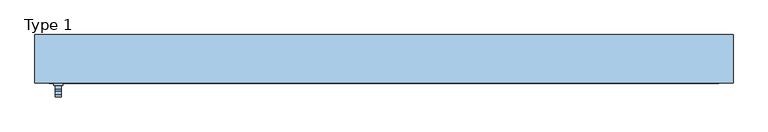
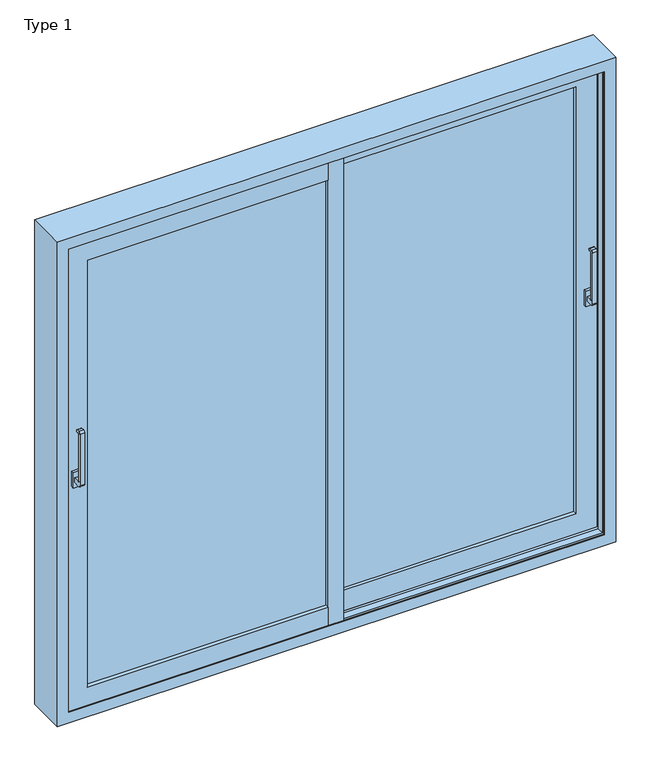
"""IFC4 building model written with IfcOpenShell, lengths in millimetres: window geometry, ETEM_E50_Double_Fly Screen_NI_Lift_Sliding : Type 1."""

import ifcopenshell
import ifcopenshell.guid

model = None  # the IFC model being written
_history = None  # IfcOwnerHistory: only IFC2X3 demands one
_inside = {}  # id of a spatial element -> (the spatial element, [elements in it])
_under = {}  # id of a project, library or spatial element -> (it, [spatial elements below it])
_declared = {}  # id of a project -> (the project, [libraries it declares])
_typed = {}  # id of a type object -> (the type object, [elements of that type])
_made_of = {}  # id of a material, layer set ... -> (it, [elements and type objects made of it])


def new_model(schema):
    """Start an empty IFC model of exactly this schema.

    Asked for "IFC4X3", IfcOpenShell would pick the latest addendum, in which some entities
    have other attributes; the version numbers below select the first issue.
    IFC2X3 requires an IfcOwnerHistory on every rooted entity: one is made here for all.
    """
    global model, _history
    if schema == "IFC4X3":
        model = ifcopenshell.file(schema_version=(4, 3, 0, 0))
    else:
        model = ifcopenshell.file(schema=schema)
    _inside.clear()
    _under.clear()
    _declared.clear()
    _typed.clear()
    _made_of.clear()
    _history = None
    if model.schema == "IFC2X3":
        org = make("IfcOrganization", Name="unknown")
        user = make(
            "IfcPersonAndOrganization",
            ThePerson=make("IfcPerson", FamilyName="unknown"),
            TheOrganization=org,
        )
        app = make(
            "IfcApplication",
            ApplicationDeveloper=org,
            Version="unknown",
            ApplicationFullName="unknown",
            ApplicationIdentifier="unknown",
        )
        _history = make(
            "IfcOwnerHistory",
            OwningUser=user,
            OwningApplication=app,
            ChangeAction="ADDED",
            CreationDate=0,
        )
    return model


def make(cls, **values):
    """One entity of the class cls with the attributes given. An attribute that is None is left unset."""
    return model.create_entity(
        cls, **{name: value for name, value in values.items() if value is not None}
    )


def rooted(cls, **values):
    """An entity with a GlobalId (a new one), such as an element, a storey or a relation."""
    return make(cls, GlobalId=ifcopenshell.guid.new(), OwnerHistory=_history, **values)


def si_unit(unit_type, name, prefix=None):
    """IfcSIUnit, for example si_unit("LENGTHUNIT", "METRE", prefix="MILLI")."""
    return make("IfcSIUnit", UnitType=unit_type, Prefix=prefix, Name=name)


def assignment(units):
    """IfcUnitAssignment: the units of a project."""
    return None if units is None else make("IfcUnitAssignment", Units=units)


def point(xyz):
    """IfcCartesianPoint."""
    return None if xyz is None else make("IfcCartesianPoint", Coordinates=xyz)


def direction(xyz):
    """IfcDirection."""
    return None if xyz is None else make("IfcDirection", DirectionRatios=xyz)


def frame(location, z_axis=None, x_axis=None):
    """IfcAxis2Placement3D, a coordinate frame: its origin and axes. An axis left out is left unset."""
    return make(
        "IfcAxis2Placement3D",
        Location=point(location),
        Axis=direction(z_axis),
        RefDirection=direction(x_axis),
    )


def frame_2d(location, x_axis=None):
    """IfcAxis2Placement2D, a coordinate frame in the plane: its origin and x axis."""
    return make(
        "IfcAxis2Placement2D", Location=point(location), RefDirection=direction(x_axis)
    )


def origin():
    """The frame at (0, 0, 0) with its axes left unset."""
    return frame((0.0, 0.0, 0.0))


def place(relative_to, where):
    """IfcLocalPlacement: puts the frame where relative to a parent placement (None: the world)."""
    return make(
        "IfcLocalPlacement", PlacementRelTo=relative_to, RelativePlacement=where
    )


def context(
    kind, dimensions, precision=None, world=None, true_north=None, identifier=None
):
    """IfcGeometricRepresentationContext, for example the 3D "Model" context."""
    return make(
        "IfcGeometricRepresentationContext",
        ContextIdentifier=identifier,
        ContextType=kind,
        CoordinateSpaceDimension=dimensions,
        Precision=precision,
        WorldCoordinateSystem=world,
        TrueNorth=true_north,
    )


def project(units=None, contexts=None):
    """IfcProject with its units and contexts."""
    return rooted(
        "IfcProject",
        Name="project",
        RepresentationContexts=contexts,
        UnitsInContext=assignment(units),
    )


def spatial(cls, under=None, at=None, **own):
    """A site, building, storey or space (cls), placed at a placement, below another one or the project."""
    s = rooted(cls, ObjectPlacement=at, **own)
    if under is not None:
        _under.setdefault(under.id(), (under, []))[1].append(s)
    return s


def polyline(points):
    """IfcPolyline through the points."""
    return make("IfcPolyline", Points=[point(p) for p in points])


def circle_curve(where, radius):
    """IfcCircle in the frame where."""
    return make("IfcCircle", Position=where, Radius=radius)


def ellipse_curve(where, semi_axis1, semi_axis2):
    """IfcEllipse in the frame where."""
    return make(
        "IfcEllipse", Position=where, SemiAxis1=semi_axis1, SemiAxis2=semi_axis2
    )


def trimmed(basis, trim1, trim2, sense, master):
    """IfcTrimmedCurve: the piece of a basis curve between two trims."""
    return make(
        "IfcTrimmedCurve",
        BasisCurve=basis,
        Trim1=trim1,
        Trim2=trim2,
        SenseAgreement=sense,
        MasterRepresentation=master,
    )


def segment(curve, same_sense, transition):
    """IfcCompositeCurveSegment."""
    return make(
        "IfcCompositeCurveSegment",
        Transition=transition,
        SameSense=same_sense,
        ParentCurve=curve,
    )


def composite_curve(segments, self_intersect=None):
    """IfcCompositeCurve: segments joined end to end."""
    return make("IfcCompositeCurve", Segments=segments, SelfIntersect=self_intersect)


def outline(outer, holes=None, kind="AREA"):
    """IfcArbitraryClosedProfileDef: a profile drawn as a closed curve; with holes, ...WithVoids."""
    if holes is None:
        return make("IfcArbitraryClosedProfileDef", ProfileType=kind, OuterCurve=outer)
    return make(
        "IfcArbitraryProfileDefWithVoids",
        ProfileType=kind,
        OuterCurve=outer,
        InnerCurves=holes,
    )


def extrude(swept, where, along, depth):
    """IfcExtrudedAreaSolid: the profile swept, set in the frame where, extruded along a direction by depth."""
    return make(
        "IfcExtrudedAreaSolid",
        SweptArea=swept,
        Position=where,
        ExtrudedDirection=direction(along),
        Depth=depth,
    )


def faces_of(points, faces, orient=None, outer=None):
    """IfcFace entities. A face is a list of loops; a loop is a list of indices into points, from 0.

    orient and outer hold one flag for each loop. By default every Orientation is true, the
    first loop of a face is its IfcFaceOuterBound and the others are IfcFaceBound.
    """
    made = []
    for i, loops in enumerate(faces):
        bounds = []
        for j, loop in enumerate(loops):
            is_outer = j == 0 if outer is None else outer[i][j]
            bounds.append(
                make(
                    "IfcFaceOuterBound" if is_outer else "IfcFaceBound",
                    Bound=make("IfcPolyLoop", Polygon=[points[k] for k in loop]),
                    Orientation=True if orient is None else orient[i][j],
                )
            )
        made.append(make("IfcFace", Bounds=bounds))
    return made


def faceted_brep(points, faces, orient=None, outer=None, voids=None):
    """IfcFacetedBrep: a solid bounded by flat faces; with voids (closed shells), ...WithVoids."""
    shared = [point(p) for p in points]
    hull = make("IfcClosedShell", CfsFaces=faces_of(shared, faces, orient, outer))
    if voids is None:
        return make("IfcFacetedBrep", Outer=hull)
    return make(
        "IfcFacetedBrepWithVoids",
        Outer=hull,
        Voids=[
            make(cls, CfsFaces=faces_of(shared, fs, o, b)) for cls, fs, o, b in voids
        ],
    )


def shape(context_of_items, identifier, shape_type, items):
    """IfcShapeRepresentation: the items that make up one representation, for example the "Body"."""
    return make(
        "IfcShapeRepresentation",
        ContextOfItems=context_of_items,
        RepresentationIdentifier=identifier,
        RepresentationType=shape_type,
        Items=items,
    )


def source(mapping_origin, context_of_items, identifier, shape_type, items):
    """IfcRepresentationMap: a shape defined once, which mapped items show again and again."""
    return make(
        "IfcRepresentationMap",
        MappingOrigin=mapping_origin,
        MappedRepresentation=shape(context_of_items, identifier, shape_type, items),
    )


def transform(
    local_origin,
    x_axis=None,
    y_axis=None,
    z_axis=None,
    scale=None,
    scale2=None,
    scale3=None,
    uniform=True,
):
    """IfcCartesianTransformationOperator3D, or its non-uniform kind. x_axis, y_axis, z_axis: its Axis1, 2, 3."""
    if uniform:
        return make(
            "IfcCartesianTransformationOperator3D",
            Axis1=direction(x_axis),
            Axis2=direction(y_axis),
            LocalOrigin=point(local_origin),
            Scale=scale,
            Axis3=direction(z_axis),
        )
    return make(
        "IfcCartesianTransformationOperator3DnonUniform",
        Axis1=direction(x_axis),
        Axis2=direction(y_axis),
        LocalOrigin=point(local_origin),
        Scale=scale,
        Axis3=direction(z_axis),
        Scale2=scale2,
        Scale3=scale3,
    )


def mapped(mapping_source, mapping_target):
    """IfcMappedItem: shows the shape of a source again, moved by a transform."""
    return make(
        "IfcMappedItem", MappingSource=mapping_source, MappingTarget=mapping_target
    )


def made_of(thing, what):
    """Note that an element or type object is made of a material, layer set ...; save() writes the relation."""
    if what is not None:
        _made_of.setdefault(what.id(), (what, []))[1].append(thing)
    return thing


def element(
    cls,
    number,
    at=None,
    inside=None,
    cuts=None,
    type_object=None,
    material=None,
    context=None,
    identifier="Body",
    shape_type=None,
    held_by="IfcProductDefinitionShape",
    body=None,
    shapes=None,
    **own,
):
    """One element of the class cls, such as IfcWall. Its Tag is "e" and its number.

    at: its placement. inside: the storey or other place that contains it. cuts: it is an
    opening in that element (IfcRelVoidsElement). A single representation is given by context,
    identifier, shape_type and body (its items); several are given by shapes. held_by: the class
    of the entity that holds the representations. save() writes the other relations.
    """
    e = rooted(cls, Tag="e%d" % number, ObjectPlacement=at, **own)
    if body is not None:
        shapes = [shape(context, identifier, shape_type, body)]
    if shapes is not None:
        e.Representation = make(held_by, Representations=shapes)
    if inside is not None:
        _inside.setdefault(inside.id(), (inside, []))[1].append(e)
    if cuts is not None:
        rooted(
            "IfcRelVoidsElement", RelatingBuildingElement=cuts, RelatedOpeningElement=e
        )
    if type_object is not None:
        _typed.setdefault(type_object.id(), (type_object, []))[1].append(e)
    return made_of(e, material)


def aggregate(whole, parts):
    """IfcRelAggregates: a whole, such as a stair, and the parts it consists of."""
    return rooted("IfcRelAggregates", RelatingObject=whole, RelatedObjects=parts)


def save(model, path):
    """Write the relations noted so far, then the file.

    IfcRelAggregates (storeys below a building ...), IfcRelContainedInSpatialStructure (elements
    in a storey), IfcRelDefinesByType, IfcRelAssociatesMaterial and IfcRelDeclares: one each for
    every whole, place, type object, material and project.
    """
    for whole, parts in _under.values():
        aggregate(whole, parts)
    for where, things in _inside.values():
        rooted(
            "IfcRelContainedInSpatialStructure",
            RelatedElements=things,
            RelatingStructure=where,
        )
    for kind, things in _typed.values():
        rooted("IfcRelDefinesByType", RelatedObjects=things, RelatingType=kind)
    for what, things in _made_of.values():
        rooted("IfcRelAssociatesMaterial", RelatedObjects=things, RelatingMaterial=what)
    for by, libraries in _declared.values():
        rooted("IfcRelDeclares", RelatingContext=by, RelatedDefinitions=libraries)
    model.write(path)


def plane_surface(at):
    """IfcPlane: the flat surface through the origin of the frame at, square to its z axis."""
    return make("IfcPlane", Position=at)


def cylinder_surface(at, radius):
    """IfcCylindricalSurface: all points at the distance radius from the z axis of the frame at."""
    return make("IfcCylindricalSurface", Position=at, Radius=radius)


def revolved_surface(curve, axis_point, axis_direction):
    """IfcSurfaceOfRevolution: the curve turned about the line through axis_point along axis_direction."""
    return make(
        "IfcSurfaceOfRevolution",
        SweptCurve=make("IfcArbitraryOpenProfileDef", ProfileType="CURVE", Curve=curve),
        AxisPosition=make("IfcAxis1Placement", Location=point(axis_point), Axis=direction(axis_direction)),
    )


def advanced_brep(points, edges, surfaces, faces):
    """IfcAdvancedBrep: a solid bounded by faces that lie on surfaces and meet in shared edges.

    An edge is (start, end): straight between two places in points (the first is 0);
    or (start, end, curve); or (start, end, curve, False) where it runs against its curve.
    A face is (place in surfaces, loops), or (place, loops, False) where it looks against
    its surface's normal. A loop lists edges by number (the first is 1), with a minus sign
    where the edge is run from its end to its start. The first loop is the outer one.
    """
    corners = [point(p) for p in points]
    vertices = [make("IfcVertexPoint", VertexGeometry=c) for c in corners]
    made = []
    for start, end, *more in edges:
        made.append(
            make(
                "IfcEdgeCurve",
                EdgeStart=vertices[start],
                EdgeEnd=vertices[end],
                EdgeGeometry=more[0] if more else make("IfcPolyline", Points=[corners[start], corners[end]]),
                SameSense=more[1] if len(more) > 1 else True,
            )
        )
    hull = []
    for where, loops, *sense in faces:
        bounds = []
        for j, loop in enumerate(loops):
            ring = [make("IfcOrientedEdge", EdgeElement=made[abs(k) - 1], Orientation=k > 0) for k in loop]
            bounds.append(
                make(
                    "IfcFaceOuterBound" if j == 0 else "IfcFaceBound",
                    Bound=make("IfcEdgeLoop", EdgeList=ring),
                    Orientation=True,
                )
            )
        hull.append(make("IfcAdvancedFace", Bounds=bounds, FaceSurface=surfaces[where], SameSense=sense[0] if sense else True))
    return make("IfcAdvancedBrep", Outer=make("IfcClosedShell", CfsFaces=hull))


def type_1_ba693a51(model_context):
    return source(origin(), model_context, "Body", "SolidModel", [
        extrude(outline(polyline([(1135.0, -4.2), (1105.0, -4.2), (1105.0, 8.8), (1135.0, 8.8), (1135.0, -4.2)])), frame((0.0, 0.0, 1065.0), z_axis=(0.0, 0.0, 1.0), x_axis=(1.0, 0.0, 0.0)), (0.0, 0.0, 1.0), 70.0),
        extrude(outline(composite_curve([segment(polyline([(-4.2, 1090.0), (-35.7736848, 1090.0)]), True, "CONTINUOUS"), segment(trimmed(circle_curve(frame_2d((-35.7736848, 1098.4263152)), 8.4263152), [point((-35.7736848, 1090.0))], [point((-44.2, 1098.4263152))], False, "CARTESIAN"), True, "CONTINUOUS"), segment(polyline([(-44.2, 1098.4263152), (-44.2, 1331.5736848)]), True, "CONTINUOUS"), segment(trimmed(circle_curve(frame_2d((-35.7736848, 1331.5736848)), 8.4263152), [point((-44.2, 1331.5736848))], [point((-35.7736848, 1340.0))], False, "CARTESIAN"), True, "CONTINUOUS"), segment(polyline([(-35.7736848, 1340.0), (-24.2, 1340.0)]), True, "CONTINUOUS"), segment(trimmed(circle_curve(frame_2d((-24.2, 1335.0)), 5.0), [point((-24.2, 1340.0))], [point((-24.2, 1330.0))], False, "CARTESIAN"), True, "CONTINUOUS"), segment(polyline([(-24.2, 1330.0), (-30.6644661, 1330.0)]), True, "CONTINUOUS"), segment(trimmed(circle_curve(frame_2d((-30.6644661, 1326.4644661)), 3.5355339), [point((-30.6644661, 1330.0))], [point((-34.2, 1326.4644661))], True, "CARTESIAN"), True, "CONTINUOUS"), segment(polyline([(-34.2, 1326.4644661), (-34.2, 1113.5355339)]), True, "CONTINUOUS"), segment(trimmed(circle_curve(frame_2d((-30.6644661, 1113.5355339)), 3.5355339), [point((-34.2, 1113.5355339))], [point((-30.6644661, 1110.0))], True, "CARTESIAN"), True, "CONTINUOUS"), segment(polyline([(-30.6644661, 1110.0), (-4.2, 1110.0), (-4.2, 1090.0)]), True, "CONTINUOUS")], self_intersect=False)), frame((1110.0, 0.0, 0.0), z_axis=(1.0, 0.0, 0.0), x_axis=(0.0, 1.0, 0.0)), (0.0, 0.0, 1.0), 20.0),
        extrude(outline(polyline([(-1105.0, -69.2), (-1135.0, -69.2), (-1135.0, -56.2), (-1105.0, -56.2), (-1105.0, -69.2)])), frame((0.0, 0.0, 1065.0), z_axis=(0.0, 0.0, 1.0), x_axis=(1.0, 0.0, 0.0)), (0.0, 0.0, 1.0), 70.0),
        extrude(outline(composite_curve([segment(polyline([(-69.2, 1090.0), (-100.7736848, 1090.0)]), True, "CONTINUOUS"), segment(trimmed(circle_curve(frame_2d((-100.7736848, 1098.4263152)), 8.4263152), [point((-100.7736848, 1090.0))], [point((-109.2, 1098.4263152))], False, "CARTESIAN"), True, "CONTINUOUS"), segment(polyline([(-109.2, 1098.4263152), (-109.2, 1331.5736848)]), True, "CONTINUOUS"), segment(trimmed(circle_curve(frame_2d((-100.7736848, 1331.5736848)), 8.4263152), [point((-109.2, 1331.5736848))], [point((-100.7736848, 1340.0))], False, "CARTESIAN"), True, "CONTINUOUS"), segment(polyline([(-100.7736848, 1340.0), (-89.2, 1340.0)]), True, "CONTINUOUS"), segment(trimmed(circle_curve(frame_2d((-89.2, 1335.0)), 5.0), [point((-89.2, 1340.0))], [point((-89.2, 1330.0))], False, "CARTESIAN"), True, "CONTINUOUS"), segment(polyline([(-89.2, 1330.0), (-95.6644661, 1330.0)]), True, "CONTINUOUS"), segment(trimmed(circle_curve(frame_2d((-95.6644661, 1326.4644661)), 3.5355339), [point((-95.6644661, 1330.0))], [point((-99.2, 1326.4644661))], True, "CARTESIAN"), True, "CONTINUOUS"), segment(polyline([(-99.2, 1326.4644661), (-99.2, 1113.5355339)]), True, "CONTINUOUS"), segment(trimmed(circle_curve(frame_2d((-95.6644661, 1113.5355339)), 3.5355339), [point((-99.2, 1113.5355339))], [point((-95.6644661, 1110.0))], True, "CARTESIAN"), True, "CONTINUOUS"), segment(polyline([(-95.6644661, 1110.0), (-69.2, 1110.0), (-69.2, 1090.0)]), True, "CONTINUOUS")], self_intersect=False)), frame((-1130.0, 0.0, 0.0), z_axis=(1.0, 0.0, 0.0), x_axis=(0.0, 1.0, 0.0)), (0.0, 0.0, 1.0), 20.0),
        faceted_brep([(-32.5, -6.2, 131.0), (-32.5, -56.2, 131.0), (-32.5, -56.2, 39.5), (-32.5, -51.5, 39.5), (-32.5, -51.5, 68.7), (-32.5, -10.9, 68.7), (-32.5, -10.9, 39.5), (-32.5, -6.2, 39.5), (-32.5, -6.2, 2069.0), (-32.5, -6.2, 2160.5), (-32.5, -10.9, 2160.5), (-32.5, -10.9, 2131.3), (-32.5, -51.5, 2131.3), (-32.5, -51.5, 2160.5), (-32.5, -56.2, 2160.5), (-32.5, -56.2, 2069.0), (-1068.999965, -6.2, 131.0), (-1068.999965, -56.2, 131.0), (-1068.999965, -56.2, 2069.0), (-1160.499965, -56.2, 2160.5), (-1160.499965, -56.2, 39.5), (-1160.499965, -51.5, 39.5), (-1160.499965, -51.5, 2160.5), (-1131.299965, -51.5, 2131.3), (-1131.299965, -51.5, 68.7), (-1131.299965, -10.9, 68.7), (-1131.299965, -10.9, 2131.3), (-1160.499965, -10.9, 2160.5), (-1160.499965, -10.9, 39.5), (-1160.499965, -6.2, 39.5), (-1160.499965, -6.2, 2160.5), (-1068.999965, -6.2, 2069.0)], [[[0, 1, 2, 3, 4, 5, 6, 7]], [[8, 9, 10, 11, 12, 13, 14, 15]], [[1, 0, 16, 17]], [[2, 1, 17, 18, 15, 14, 19, 20]], [[3, 2, 20, 21]], [[4, 3, 21, 22, 13, 12, 23, 24]], [[5, 4, 24, 25]], [[6, 5, 25, 26, 11, 10, 27, 28]], [[7, 6, 28, 29]], [[0, 7, 29, 30, 9, 8, 31, 16]], [[17, 16, 31, 18]], [[21, 20, 19, 22]], [[25, 24, 23, 26]], [[29, 28, 27, 30]], [[18, 31, 8, 15]], [[22, 19, 14, 13]], [[26, 23, 12, 11]], [[30, 27, 10, 9]]]),
        extrude(outline(polyline([(32.5, -56.2), (-32.5, -56.2), (-32.5, -6.2), (2.55, -6.2), (2.55, 1.3259028), (0.0, 1.3259028), (0.0, 3.2), (4.4, 3.2), (4.4, -1.5), (15.75, -1.5), (15.75, 4.8), (32.5, 4.8), (32.5, -56.2)])), frame((0.0, 0.0, 39.5), z_axis=(0.0, 0.0, 1.0), x_axis=(1.0, 0.0, 0.0)), (0.0, 0.0, 1.0), 2121.0),
        extrude(outline(polyline([(-32.5, -40.2), (-1068.999965, -40.2), (-1068.999965, -35.2), (-32.5, -35.2), (-32.5, -40.2)])), frame((0.0, 0.0, 131.0), z_axis=(0.0, 0.0, 1.0), x_axis=(1.0, 0.0, 0.0)), (0.0, 0.0, 1.0), 1938.0),
        extrude(outline(polyline([(32.5, 50.7998789), (1068.999965, 50.7998789), (1068.999965, 45.7998789), (32.5, 45.7998789), (32.5, 50.7998789)])), frame((0.0, 0.0, 131.0), z_axis=(0.0, 0.0, 1.0), x_axis=(1.0, 0.0, 0.0)), (0.0, 0.0, 1.0), 1938.0),
        faceted_brep([(1200.0, 105.0, 2200.0), (1200.0, -61.8, 2200.0), (1200.0, -61.8, 0.0), (1200.0, 105.0, 0.0), (-1200.0, -61.8, 2200.0), (-1200.0, -61.8, 0.0), (1151.5, -61.8, 48.5), (-1151.5, -61.8, 48.5), (-1151.5, -61.8, 2151.5), (1151.5, -61.8, 2151.5), (-1200.0, 105.0, 0.0), (-1200.0, 105.0, 2200.0), (1180.2, 105.0, 2180.2), (-1180.2, 105.0, 2180.2), (-1180.2, 105.0, 19.8), (1180.2, 105.0, 19.8), (1178.2, 89.3, 2178.2), (1178.2, 93.5, 2178.2), (1178.2, 93.5, 21.8), (1178.2, 89.3, 21.8), (-1178.2, 93.5, 21.8), (-1178.2, 89.3, 21.8), (-1178.2, 89.3, 2178.2), (1159.5, 89.3, 2159.5), (-1159.5, 89.3, 2159.5), (-1159.5, 89.3, 40.5), (1159.5, 89.3, 40.5), (1159.5, 90.8, 2159.5), (1159.5, 90.8, 40.5), (-1159.5, 90.8, 40.5), (-1159.5, 90.8, 2159.5), (1151.5, 90.8, 2151.5), (-1151.5, 90.8, 2151.5), (-1151.5, 90.8, 48.5), (1151.5, 90.8, 48.5), (1151.5, 78.8, 2151.5), (1151.5, 78.8, 48.5), (-1151.5, 78.8, 48.5), (1159.5, 78.8, 2159.5), (-1159.5, 78.8, 2159.5), (-1159.5, 78.8, 40.5), (1159.5, 78.8, 40.5), (-1151.5, 78.8, 2151.5), (1159.5, 80.3, 2159.5), (1159.5, 80.3, 40.5), (-1159.5, 80.3, 40.5), (1178.2, 80.3, 2178.2), (-1178.2, 80.3, 2178.2), (-1178.2, 80.3, 21.8), (1178.2, 80.3, 21.8), (-1159.5, 80.3, 2159.5), (1178.2, 38.3, 2178.2), (1178.2, 38.3, 21.8), (-1178.2, 38.3, 21.8), (-1178.2, 38.3, 2178.2), (1159.5, 38.3, 2159.5), (-1159.5, 38.3, 2159.5), (-1159.5, 38.3, 40.5), (1159.5, 38.3, 40.5), (1159.5, 49.8, 2159.5), (1159.5, 49.8, 40.5), (-1159.5, 49.8, 40.5), (-1159.5, 49.8, 2159.5), (1151.5, 49.8, 2151.5), (-1151.5, 49.8, 2151.5), (-1151.5, 49.8, 48.5), (1151.5, 49.8, 48.5), (1151.5, 17.8, 2151.5), (1151.5, 17.8, 48.5), (-1151.5, 17.8, 48.5), (1159.5, 17.8, 2159.5), (-1159.5, 17.8, 2159.5), (-1159.5, 17.8, 40.5), (1159.5, 17.8, 40.5), (-1151.5, 17.8, 2151.5), (1159.5, 29.3, 2159.5), (1159.5, 29.3, 40.5), (-1159.5, 29.3, 40.5), (1178.2, 29.3, 2178.2), (-1178.2, 29.3, 2178.2), (-1178.2, 29.3, 21.8), (1178.2, 29.3, 21.8), (-1159.5, 29.3, 2159.5), (1178.2, -26.7, 2178.2), (1178.2, -26.7, 21.8), (-1178.2, -26.7, 21.8), (-1178.2, -26.7, 2178.2), (1159.5, -26.7, 2159.5), (-1159.5, -26.7, 2159.5), (-1159.5, -26.7, 40.5), (1159.5, -26.7, 40.5), (1159.5, -15.2, 2159.5), (1159.5, -15.2, 40.5), (-1159.5, -15.2, 40.5), (-1159.5, -15.2, 2159.5), (1151.5, -15.2, 2151.5), (-1151.5, -15.2, 2151.5), (-1151.5, -15.2, 48.5), (1151.5, -15.2, 48.5), (1151.5, -47.2, 2151.5), (1151.5, -47.2, 48.5), (-1151.5, -47.2, 48.5), (1159.5, -47.2, 2159.5), (-1159.5, -47.2, 2159.5), (-1159.5, -47.2, 40.5), (1159.5, -47.2, 40.5), (-1151.5, -47.2, 2151.5), (1159.5, -35.7, 2159.5), (1159.5, -35.7, 40.5), (-1159.5, -35.7, 40.5), (1178.2, -35.7, 2178.2), (-1178.2, -35.7, 2178.2), (-1178.2, -35.7, 21.8), (1178.2, -35.7, 21.8), (-1159.5, -35.7, 2159.5), (1178.2, -58.2, 2178.2), (1178.2, -58.2, 21.8), (-1178.2, -58.2, 21.8), (-1178.2, -58.2, 2178.2), (1151.5, -58.2, 2151.5), (-1151.5, -58.2, 2151.5), (-1151.5, -58.2, 48.5), (1151.5, -58.2, 48.5), (-1178.2, 93.5, 2178.2), (1180.2, 93.5, 19.8), (-1180.2, 93.5, 19.8), (-1180.2, 93.5, 2180.2), (1180.2, 93.5, 2180.2)], [[[0, 1, 2, 3]], [[1, 4, 5, 2], [6, 7, 8, 9]], [[3, 2, 5, 10]], [[3, 10, 11, 0], [12, 13, 14, 15]], [[16, 17, 18, 19]], [[19, 18, 20, 21]], [[19, 21, 22, 16], [23, 24, 25, 26]], [[27, 23, 26, 28]], [[28, 26, 25, 29]], [[28, 29, 30, 27], [31, 32, 33, 34]], [[35, 31, 34, 36]], [[36, 34, 33, 37]], [[38, 39, 40, 41], [36, 37, 42, 35]], [[43, 38, 41, 44]], [[44, 41, 40, 45]], [[46, 47, 48, 49], [44, 45, 50, 43]], [[51, 46, 49, 52]], [[52, 49, 48, 53]], [[52, 53, 54, 51], [55, 56, 57, 58]], [[59, 55, 58, 60]], [[60, 58, 57, 61]], [[60, 61, 62, 59], [63, 64, 65, 66]], [[67, 63, 66, 68]], [[68, 66, 65, 69]], [[70, 71, 72, 73], [68, 69, 74, 67]], [[75, 70, 73, 76]], [[76, 73, 72, 77]], [[78, 79, 80, 81], [76, 77, 82, 75]], [[83, 78, 81, 84]], [[84, 81, 80, 85]], [[84, 85, 86, 83], [87, 88, 89, 90]], [[91, 87, 90, 92]], [[92, 90, 89, 93]], [[92, 93, 94, 91], [95, 96, 97, 98]], [[99, 95, 98, 100]], [[100, 98, 97, 101]], [[102, 103, 104, 105], [100, 101, 106, 99]], [[107, 102, 105, 108]], [[108, 105, 104, 109]], [[110, 111, 112, 113], [108, 109, 114, 107]], [[115, 110, 113, 116]], [[116, 113, 112, 117]], [[116, 117, 118, 115], [119, 120, 121, 122]], [[9, 119, 122, 6]], [[6, 122, 121, 7]], [[10, 5, 4, 11]], [[21, 20, 123, 22]], [[29, 25, 24, 30]], [[37, 33, 32, 42]], [[45, 40, 39, 50]], [[53, 48, 47, 54]], [[61, 57, 56, 62]], [[69, 65, 64, 74]], [[77, 72, 71, 82]], [[85, 80, 79, 86]], [[93, 89, 88, 94]], [[101, 97, 96, 106]], [[109, 104, 103, 114]], [[117, 112, 111, 118]], [[7, 121, 120, 8]], [[11, 4, 1, 0]], [[22, 123, 17, 16]], [[30, 24, 23, 27]], [[42, 32, 31, 35]], [[50, 39, 38, 43]], [[54, 47, 46, 51]], [[62, 56, 55, 59]], [[74, 64, 63, 67]], [[82, 71, 70, 75]], [[86, 79, 78, 83]], [[94, 88, 87, 91]], [[106, 96, 95, 99]], [[114, 103, 102, 107]], [[118, 111, 110, 115]], [[8, 120, 119, 9]], [[124, 125, 126, 127], [17, 123, 20, 18]], [[125, 14, 13, 126]], [[124, 15, 14, 125]], [[127, 12, 15, 124]], [[126, 13, 12, 127]]]),
        extrude(outline(polyline([(32.5, 29.8), (1068.999965, 29.8), (1068.999965, 24.8), (32.5, 24.8), (32.5, 29.8)])), frame((0.0, 0.0, 131.0), z_axis=(0.0, 0.0, 1.0), x_axis=(1.0, 0.0, 0.0)), (0.0, 0.0, 1.0), 1938.0),
        extrude(outline(polyline([(-32.5, -19.2001211), (-1068.999965, -19.2001211), (-1068.999965, -14.2001211), (-32.5, -14.2001211), (-32.5, -19.2001211)])), frame((0.0, 0.0, 131.0), z_axis=(0.0, 0.0, 1.0), x_axis=(1.0, 0.0, 0.0)), (0.0, 0.0, 1.0), 1938.0),
        extrude(outline(polyline([(-28.5, 73.8), (-1089.499965, 73.8), (-1089.499965, 74.8), (-28.5, 74.8), (-28.5, 73.8)])), frame((0.0, 0.0, 110.5), z_axis=(0.0, 0.0, 1.0), x_axis=(1.0, 0.0, 0.0)), (0.0, 0.0, 1.0), 1979.0),
        advanced_brep(
        [(-25.1, 71.8, 2092.9), (-25.1, 74.8, 2092.9), (-25.1, 74.8, 107.1), (-25.1, 71.8, 107.1), (-1092.899965, 74.8, 2092.9), (-1092.899965, 74.8, 107.1), (-32.5, 74.8, 114.5), (-1085.499965, 74.8, 114.5), (-1085.499965, 74.8, 2085.5), (-32.5, 74.8, 2085.5), (-1092.899965, 71.8, 107.1), (-23.3, 71.8, 2094.7), (-1094.699965, 71.8, 2094.7), (-1094.699965, 71.8, 105.3), (-23.3, 71.8, 105.3), (-1092.899965, 71.8, 2092.9), (-23.3543214, 72.9975359, 2094.6456786), (-23.3543214, 72.9975359, 105.3543214), (-1094.6456435, 72.9975359, 105.3543214), (-23.9, 73.5, 2094.1), (-23.9, 73.5, 105.9), (-1094.099965, 73.5, 105.9), (-23.9, 80.1, 2094.1), (-23.9, 80.1, 105.9), (-1094.099965, 80.1, 105.9), (-3.7, 80.1, 2114.3), (-1114.299965, 80.1, 2114.3), (-1114.299965, 80.1, 85.7), (-3.7, 80.1, 85.7), (-1094.099965, 80.1, 2094.1), (-3.7, 71.8, 2114.3), (-3.7, 71.8, 85.7), (-1114.299965, 71.8, 85.7), (39.5, 71.8, 2157.5), (-1157.499965, 71.8, 2157.5), (-1157.499965, 71.8, 42.5), (39.5, 71.8, 42.5), (-1114.299965, 71.8, 2114.3), (42.5, 73.1542487, 2160.5), (42.5, 73.1542487, 39.5), (-1160.499965, 73.1542487, 39.5), (42.5, 76.3, 2160.5), (42.5, 76.3, 39.5), (-1160.499965, 76.3, 39.5), (-1160.499965, 76.3, 2160.5), (32.2, 76.3, 2150.2), (-1150.199965, 76.3, 2150.2), (-1150.199965, 76.3, 49.8), (32.2, 76.3, 49.8), (32.2, 93.3, 2150.2), (32.2, 93.3, 49.8), (-1150.199965, 93.3, 49.8), (42.5, 93.3, 2160.5), (-1160.499965, 93.3, 2160.5), (-1160.499965, 93.3, 39.5), (42.5, 93.3, 39.5), (-1150.199965, 93.3, 2150.2), (42.5, 96.4457513, 2160.5), (42.5, 96.4457513, 39.5), (-1160.499965, 96.4457513, 39.5), (39.5, 97.8, 2157.5), (39.5, 97.8, 42.5), (-1157.499965, 97.8, 42.5), (-1157.499965, 97.8, 2157.5), (-3.7, 97.8, 2114.3), (-1114.299965, 97.8, 2114.3), (-1114.299965, 97.8, 85.7), (-3.7, 97.8, 85.7), (-3.7, 89.5, 2114.3), (-3.7, 89.5, 85.7), (-1114.299965, 89.5, 85.7), (-1114.299965, 89.5, 2114.3), (-30.1, 89.5, 2087.9), (-1087.899965, 89.5, 2087.9), (-1087.899965, 89.5, 112.1), (-30.1, 89.5, 112.1), (-31.3, 90.7, 2086.7), (-31.3, 90.7, 113.3), (-1086.699965, 90.7, 113.3), (-31.3, 93.8, 2086.7), (-31.3, 93.8, 113.3), (-1086.699965, 93.8, 113.3), (-28.9941176, 96.5560566, 2089.0058824), (-28.9941176, 96.5560566, 110.9941176), (-1089.0058473, 96.5560566, 110.9941176), (-29.2058824, 97.7372237, 2088.7941176), (-29.2058824, 97.7372237, 111.2058824), (-1088.7940826, 97.7372237, 111.2058824), (-32.5, 93.8, 2085.5), (-32.5, 93.8, 114.5), (-1085.499965, 93.8, 114.5), (-1094.6456435, 72.9975359, 2094.6456786), (-1094.099965, 73.5, 2094.1), (-1160.499965, 73.1542487, 2160.5), (-1160.499965, 96.4457513, 2160.5), (-1086.699965, 90.7, 2086.7), (-1086.699965, 93.8, 2086.7), (-1089.0058473, 96.5560566, 2089.0058824), (-1088.7940826, 97.7372237, 2088.7941176), (-1085.499965, 93.8, 2085.5)],
        [
            (0, 1),
            (1, 2),
            (2, 3),
            (3, 0),
            (1, 4),
            (4, 5),
            (5, 2),
            (6, 7),
            (7, 8),
            (8, 9),
            (9, 6),
            (5, 10),
            (10, 3),
            (11, 12),
            (12, 13),
            (13, 14),
            (14, 11),
            (10, 15),
            (15, 0),
            (16, 11, ellipse_curve(frame((-23.3, 72.4, 2094.7), z_axis=(0.7071067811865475, 0.0, -0.7071067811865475), x_axis=(0.7071067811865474, 0.0, 0.7071067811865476)), 0.8485281, 0.6)),
            (14, 17, ellipse_curve(frame((-23.3, 72.4, 105.3), z_axis=(0.7071067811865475, 0.0, 0.7071067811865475), x_axis=(-0.7071067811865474, 0.0, 0.7071067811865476)), 0.8485281, 0.6)),
            (17, 16),
            (13, 18, ellipse_curve(frame((-1094.699965, 72.4, 105.3), z_axis=(0.7071067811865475, 0.0, -0.7071067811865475), x_axis=(0.7071067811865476, 0.0, 0.7071067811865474)), 0.8485281, 0.6)),
            (18, 17),
            (19, 16, ellipse_curve(frame((-23.4, 73.5, 2094.6), z_axis=(-0.7071067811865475, 0.0, 0.7071067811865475), x_axis=(-0.7071067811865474, 0.0, -0.7071067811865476)), 0.7071068, 0.5)),
            (17, 20, ellipse_curve(frame((-23.4, 73.5, 105.4), z_axis=(-0.7071067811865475, 0.0, -0.7071067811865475), x_axis=(0.7071067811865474, 0.0, -0.7071067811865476)), 0.7071068, 0.5)),
            (20, 19),
            (18, 21, ellipse_curve(frame((-1094.599965, 73.5, 105.4), z_axis=(-0.7071067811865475, 0.0, 0.7071067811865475), x_axis=(-0.7071067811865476, 0.0, -0.7071067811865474)), 0.7071068, 0.5)),
            (21, 20),
            (22, 19),
            (20, 23),
            (23, 22),
            (21, 24),
            (24, 23),
            (25, 26),
            (26, 27),
            (27, 28),
            (28, 25),
            (24, 29),
            (29, 22),
            (30, 25),
            (28, 31),
            (31, 30),
            (27, 32),
            (32, 31),
            (33, 34),
            (34, 35),
            (35, 36),
            (36, 33),
            (32, 37),
            (37, 30),
            (38, 33, ellipse_curve(frame((39.5, 75.8, 2157.5), z_axis=(0.7071067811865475, 0.0, -0.7071067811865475), x_axis=(0.7071067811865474, 0.0, 0.7071067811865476)), 5.6568542, 4.0)),
            (36, 39, ellipse_curve(frame((39.5, 75.8, 42.5), z_axis=(0.7071067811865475, 0.0, 0.7071067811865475), x_axis=(-0.7071067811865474, 0.0, 0.7071067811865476)), 5.6568542, 4.0)),
            (39, 38),
            (35, 40, ellipse_curve(frame((-1157.499965, 75.8, 42.5), z_axis=(0.7071067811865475, 0.0, -0.7071067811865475), x_axis=(0.7071067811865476, 0.0, 0.7071067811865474)), 5.6568542, 4.0)),
            (40, 39),
            (41, 38),
            (39, 42),
            (42, 41),
            (40, 43),
            (43, 42),
            (43, 44),
            (44, 41),
            (45, 46),
            (46, 47),
            (47, 48),
            (48, 45),
            (49, 45),
            (48, 50),
            (50, 49),
            (47, 51),
            (51, 50),
            (52, 53),
            (53, 54),
            (54, 55),
            (55, 52),
            (51, 56),
            (56, 49),
            (57, 52),
            (55, 58),
            (58, 57),
            (54, 59),
            (59, 58),
            (60, 57, ellipse_curve(frame((39.5, 93.8, 2157.5), z_axis=(0.7071067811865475, 0.0, -0.7071067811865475), x_axis=(0.7071067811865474, 0.0, 0.7071067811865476)), 5.6568542, 4.0)),
            (58, 61, ellipse_curve(frame((39.5, 93.8, 42.5), z_axis=(0.7071067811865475, 0.0, 0.7071067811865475), x_axis=(-0.7071067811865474, 0.0, 0.7071067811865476)), 5.6568542, 4.0)),
            (61, 60),
            (59, 62, ellipse_curve(frame((-1157.499965, 93.8, 42.5), z_axis=(0.7071067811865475, 0.0, -0.7071067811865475), x_axis=(0.7071067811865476, 0.0, 0.7071067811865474)), 5.6568542, 4.0)),
            (62, 61),
            (62, 63),
            (63, 60),
            (64, 65),
            (65, 66),
            (66, 67),
            (67, 64),
            (68, 64),
            (67, 69),
            (69, 68),
            (66, 70),
            (70, 69),
            (70, 71),
            (71, 68),
            (72, 73),
            (73, 74),
            (74, 75),
            (75, 72),
            (76, 72, ellipse_curve(frame((-30.1, 90.7, 2087.9), z_axis=(-0.7071067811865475, 0.0, 0.7071067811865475), x_axis=(-0.7071067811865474, 0.0, -0.7071067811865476)), 1.6970563, 1.2)),
            (75, 77, ellipse_curve(frame((-30.1, 90.7, 112.1), z_axis=(-0.7071067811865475, 0.0, -0.7071067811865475), x_axis=(0.7071067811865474, 0.0, -0.7071067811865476)), 1.6970563, 1.2)),
            (77, 76),
            (74, 78, ellipse_curve(frame((-1087.899965, 90.7, 112.1), z_axis=(-0.7071067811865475, 0.0, 0.7071067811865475), x_axis=(-0.7071067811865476, 0.0, -0.7071067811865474)), 1.6970563, 1.2)),
            (78, 77),
            (79, 76),
            (77, 80),
            (80, 79),
            (78, 81),
            (81, 80),
            (82, 79, ellipse_curve(frame((-28.5, 93.8, 2089.5), z_axis=(-0.7071067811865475, 0.0, 0.7071067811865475), x_axis=(-0.7071067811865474, 0.0, -0.7071067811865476)), 3.959798, 2.8)),
            (80, 83, ellipse_curve(frame((-28.5, 93.8, 110.5), z_axis=(-0.7071067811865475, 0.0, -0.7071067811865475), x_axis=(0.7071067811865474, 0.0, -0.7071067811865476)), 3.959798, 2.8)),
            (83, 82),
            (81, 84, ellipse_curve(frame((-1089.499965, 93.8, 110.5), z_axis=(-0.7071067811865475, 0.0, 0.7071067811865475), x_axis=(-0.7071067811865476, 0.0, -0.7071067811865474)), 3.959798, 2.8)),
            (84, 83),
            (85, 82, ellipse_curve(frame((-29.1, 97.1466401, 2088.9), z_axis=(0.7071067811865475, 0.0, -0.7071067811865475), x_axis=(0.7071067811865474, 0.0, 0.7071067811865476)), 0.8485281, 0.6)),
            (83, 86, ellipse_curve(frame((-29.1, 97.1466401, 111.1), z_axis=(0.7071067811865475, 0.0, 0.7071067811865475), x_axis=(-0.7071067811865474, 0.0, 0.7071067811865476)), 0.8485281, 0.6)),
            (86, 85),
            (84, 87, ellipse_curve(frame((-1088.899965, 97.1466401, 111.1), z_axis=(0.7071067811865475, 0.0, -0.7071067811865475), x_axis=(0.7071067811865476, 0.0, 0.7071067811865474)), 0.8485281, 0.6)),
            (87, 86),
            (88, 85, ellipse_curve(frame((-28.5, 93.8, 2089.5), z_axis=(0.7071067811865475, 0.0, -0.7071067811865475), x_axis=(0.7071067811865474, 0.0, 0.7071067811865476)), 5.6568542, 4.0)),
            (86, 89, ellipse_curve(frame((-28.5, 93.8, 110.5), z_axis=(0.7071067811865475, 0.0, 0.7071067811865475), x_axis=(-0.7071067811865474, 0.0, 0.7071067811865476)), 5.6568542, 4.0)),
            (89, 88),
            (87, 90, ellipse_curve(frame((-1089.499965, 93.8, 110.5), z_axis=(0.7071067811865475, 0.0, -0.7071067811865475), x_axis=(0.7071067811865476, 0.0, 0.7071067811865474)), 5.6568542, 4.0)),
            (90, 89),
            (9, 88),
            (89, 6),
            (90, 7),
            (4, 15),
            (12, 91, ellipse_curve(frame((-1094.699965, 72.4, 2094.7), z_axis=(-0.7071067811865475, 0.0, -0.7071067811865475), x_axis=(0.7071067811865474, 0.0, -0.7071067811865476)), 0.8485281, 0.6)),
            (91, 18),
            (91, 92, ellipse_curve(frame((-1094.599965, 73.5, 2094.6), z_axis=(0.7071067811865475, 0.0, 0.7071067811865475), x_axis=(-0.7071067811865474, 0.0, 0.7071067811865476)), 0.7071068, 0.5)),
            (92, 21),
            (92, 29),
            (26, 37),
            (34, 93, ellipse_curve(frame((-1157.499965, 75.8, 2157.5), z_axis=(-0.7071067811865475, 0.0, -0.7071067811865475), x_axis=(0.7071067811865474, 0.0, -0.7071067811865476)), 5.6568542, 4.0)),
            (93, 40),
            (93, 44),
            (46, 56),
            (53, 94),
            (94, 59),
            (94, 63, ellipse_curve(frame((-1157.499965, 93.8, 2157.5), z_axis=(-0.7071067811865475, 0.0, -0.7071067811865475), x_axis=(0.7071067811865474, 0.0, -0.7071067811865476)), 5.6568542, 4.0)),
            (65, 71),
            (73, 95, ellipse_curve(frame((-1087.899965, 90.7, 2087.9), z_axis=(0.7071067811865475, 0.0, 0.7071067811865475), x_axis=(-0.7071067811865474, 0.0, 0.7071067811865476)), 1.6970563, 1.2)),
            (95, 78),
            (95, 96),
            (96, 81),
            (96, 97, ellipse_curve(frame((-1089.499965, 93.8, 2089.5), z_axis=(0.7071067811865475, 0.0, 0.7071067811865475), x_axis=(-0.7071067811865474, 0.0, 0.7071067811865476)), 3.959798, 2.8)),
            (97, 84),
            (97, 98, ellipse_curve(frame((-1088.899965, 97.1466401, 2088.9), z_axis=(-0.7071067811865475, 0.0, -0.7071067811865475), x_axis=(0.7071067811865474, 0.0, -0.7071067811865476)), 0.8485281, 0.6)),
            (98, 87),
            (98, 99, ellipse_curve(frame((-1089.499965, 93.8, 2089.5), z_axis=(-0.7071067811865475, 0.0, -0.7071067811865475), x_axis=(0.7071067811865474, 0.0, -0.7071067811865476)), 5.6568542, 4.0)),
            (99, 90),
            (99, 8),
            (16, 91),
            (19, 92),
            (38, 93),
            (57, 94),
            (76, 95),
            (79, 96),
            (82, 97),
            (85, 98),
            (88, 99),
        ],
        [
            plane_surface(frame((-25.1, 74.8, 2092.9), z_axis=(-1.0, 0.0, 0.0), x_axis=(0.0, 0.0, -1.0))),
            plane_surface(frame((-1085.499965, 74.8, 2085.5), z_axis=(0.0, -1.0, 0.0), x_axis=(1.0, 0.0, 0.0))),
            plane_surface(frame((-25.1, 74.8, 107.1), z_axis=(0.0, 0.0, 1.0), x_axis=(-1.0, 0.0, 0.0))),
            plane_surface(frame((-1092.899965, 71.8, 2092.9), z_axis=(0.0, -1.0, 0.0), x_axis=(1.0, 0.0, 0.0))),
            cylinder_surface(frame((-23.3, 72.4, 2160.5), z_axis=(0.0, 0.0, 1.0), x_axis=(1.0, 0.0, 0.0)), 0.6),
            cylinder_surface(frame((42.5, 72.4, 105.3), z_axis=(1.0, 0.0, 0.0), x_axis=(0.0, 0.0, -1.0)), 0.6),
            revolved_surface(polyline([(-22.9, 73.5, 104.89999998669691), (-22.9, 73.5, 2095.100000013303)]), (-23.4, 73.5, 2160.5), (0.0, 0.0, -1.0)),
            revolved_surface(polyline([(-1095.0999650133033, 73.5, 104.9), (-22.899999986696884, 73.5, 104.9)]), (42.5, 73.5, 105.4), (-1.0, 0.0, 0.0)),
            plane_surface(frame((-23.9, 73.5, 2094.1), z_axis=(1.0, 0.0, 0.0), x_axis=(0.0, 0.0, -1.0))),
            plane_surface(frame((-23.9, 73.5, 105.9), z_axis=(0.0, 0.0, -1.0), x_axis=(-1.0, 0.0, 0.0))),
            plane_surface(frame((-1094.099965, 80.1, 2094.1), z_axis=(0.0, -1.0, 0.0), x_axis=(1.0, 0.0, 0.0))),
            plane_surface(frame((-3.7, 80.1, 2114.3), z_axis=(-1.0, 0.0, 0.0), x_axis=(0.0, 0.0, -1.0))),
            plane_surface(frame((-3.7, 80.1, 85.7), z_axis=(0.0, 0.0, 1.0), x_axis=(-1.0, 0.0, 0.0))),
            plane_surface(frame((-1114.299965, 71.8, 2114.3), z_axis=(0.0, -1.0, 0.0), x_axis=(1.0, 0.0, 0.0))),
            cylinder_surface(frame((39.5, 75.8, 2160.5), z_axis=(0.0, 0.0, 1.0), x_axis=(1.0, 0.0, 0.0)), 4.0),
            cylinder_surface(frame((42.5, 75.8, 42.5), z_axis=(1.0, 0.0, 0.0), x_axis=(0.0, 0.0, -1.0)), 4.0),
            plane_surface(frame((42.5, 73.1542487, 2160.5), z_axis=(1.0, 0.0, 0.0), x_axis=(0.0, 0.0, -1.0))),
            plane_surface(frame((42.5, 73.1542487, 39.5), z_axis=(0.0, 0.0, -1.0), x_axis=(-1.0, 0.0, 0.0))),
            plane_surface(frame((-1160.499965, 76.3, 2160.5), z_axis=(0.0, 1.0, 0.0), x_axis=(1.0, 0.0, 0.0))),
            plane_surface(frame((32.2, 76.3, 2150.2), z_axis=(1.0, 0.0, 0.0), x_axis=(0.0, 0.0, -1.0))),
            plane_surface(frame((32.2, 76.3, 49.8), z_axis=(0.0, 0.0, -1.0), x_axis=(-1.0, 0.0, 0.0))),
            plane_surface(frame((-1150.199965, 93.3, 2150.2), z_axis=(0.0, -1.0, 0.0), x_axis=(1.0, 0.0, 0.0))),
            plane_surface(frame((42.5, 93.3, 2160.5), z_axis=(1.0, 0.0, 0.0), x_axis=(0.0, 0.0, -1.0))),
            plane_surface(frame((42.5, 93.3, 39.5), z_axis=(0.0, 0.0, -1.0), x_axis=(-1.0, 0.0, 0.0))),
            cylinder_surface(frame((39.5, 93.8, 2160.5), z_axis=(0.0, 0.0, 1.0), x_axis=(1.0, 0.0, 0.0)), 4.0),
            cylinder_surface(frame((42.5, 93.8, 42.5), z_axis=(1.0, 0.0, 0.0), x_axis=(0.0, 0.0, -1.0)), 4.0),
            plane_surface(frame((-1157.499965, 97.8, 2157.5), z_axis=(0.0, 1.0, 0.0), x_axis=(1.0, 0.0, 0.0))),
            plane_surface(frame((-3.7, 97.8, 2114.3), z_axis=(-1.0, 0.0, 0.0), x_axis=(0.0, 0.0, -1.0))),
            plane_surface(frame((-3.7, 97.8, 85.7), z_axis=(0.0, 0.0, 1.0), x_axis=(-1.0, 0.0, 0.0))),
            plane_surface(frame((-1114.299965, 89.5, 2114.3), z_axis=(0.0, 1.0, 0.0), x_axis=(1.0, 0.0, 0.0))),
            revolved_surface(polyline([(-28.900000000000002, 90.7, 110.89999998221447), (-28.900000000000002, 90.7, 2089.1000000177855)]), (-30.1, 90.7, 2160.5), (0.0, 0.0, -1.0)),
            revolved_surface(polyline([(-1089.0999650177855, 90.7, 110.89999999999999), (-28.899999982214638, 90.7, 110.89999999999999)]), (42.5, 90.7, 112.1), (-1.0, 0.0, 0.0)),
            plane_surface(frame((-31.3, 90.7, 2086.7), z_axis=(1.0, 0.0, 0.0), x_axis=(0.0, 0.0, -1.0))),
            plane_surface(frame((-31.3, 90.7, 113.3), z_axis=(0.0, 0.0, -1.0), x_axis=(-1.0, 0.0, 0.0))),
            revolved_surface(polyline([(-25.7, 93.8, 107.69999998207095), (-25.7, 93.8, 2092.300000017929)]), (-28.5, 93.8, 2160.5), (0.0, 0.0, -1.0)),
            revolved_surface(polyline([(-1092.2999650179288, 93.8, 107.7), (-25.699999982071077, 93.8, 107.7)]), (42.5, 93.8, 110.5), (-1.0, 0.0, 0.0)),
            cylinder_surface(frame((-29.1, 97.1466401, 2160.5), z_axis=(0.0, 0.0, 1.0), x_axis=(1.0, 0.0, 0.0)), 0.6),
            cylinder_surface(frame((42.5, 97.1466401, 111.1), z_axis=(1.0, 0.0, 0.0), x_axis=(0.0, 0.0, -1.0)), 0.6),
            cylinder_surface(frame((-28.5, 93.8, 2160.5), z_axis=(0.0, 0.0, 1.0), x_axis=(1.0, 0.0, 0.0)), 4.0),
            cylinder_surface(frame((42.5, 93.8, 110.5), z_axis=(1.0, 0.0, 0.0), x_axis=(0.0, 0.0, -1.0)), 4.0),
            plane_surface(frame((-32.5, 93.8, 2085.5), z_axis=(-1.0, 0.0, 0.0), x_axis=(0.0, 0.0, -1.0))),
            plane_surface(frame((-32.5, 93.8, 114.5), z_axis=(0.0, 0.0, 1.0), x_axis=(-1.0, 0.0, 0.0))),
            plane_surface(frame((-1092.899965, 74.8, 107.1), z_axis=(1.0, 0.0, 0.0), x_axis=(0.0, 0.0, 1.0))),
            cylinder_surface(frame((-1094.699965, 72.4, 39.5), z_axis=(0.0, 0.0, -1.0), x_axis=(-1.0, 0.0, 0.0)), 0.6),
            revolved_surface(polyline([(-1095.099965, 73.5, 2095.100000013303), (-1095.099965, 73.5, 104.89999998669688)]), (-1094.599965, 73.5, 39.5), (0.0, 0.0, 1.0)),
            plane_surface(frame((-1094.099965, 73.5, 105.9), z_axis=(-1.0, 0.0, 0.0), x_axis=(0.0, 0.0, 1.0))),
            plane_surface(frame((-1114.299965, 80.1, 85.7), z_axis=(1.0, 0.0, 0.0), x_axis=(0.0, 0.0, 1.0))),
            cylinder_surface(frame((-1157.499965, 75.8, 39.5), z_axis=(0.0, 0.0, -1.0), x_axis=(-1.0, 0.0, 0.0)), 4.0),
            plane_surface(frame((-1160.499965, 73.1542487, 39.5), z_axis=(-1.0, 0.0, 0.0), x_axis=(0.0, 0.0, 1.0))),
            plane_surface(frame((-1150.199965, 76.3, 49.8), z_axis=(-1.0, 0.0, 0.0), x_axis=(0.0, 0.0, 1.0))),
            plane_surface(frame((-1160.499965, 93.3, 39.5), z_axis=(-1.0, 0.0, 0.0), x_axis=(0.0, 0.0, 1.0))),
            cylinder_surface(frame((-1157.499965, 93.8, 39.5), z_axis=(0.0, 0.0, -1.0), x_axis=(-1.0, 0.0, 0.0)), 4.0),
            plane_surface(frame((-1114.299965, 97.8, 85.7), z_axis=(1.0, 0.0, 0.0), x_axis=(0.0, 0.0, 1.0))),
            revolved_surface(polyline([(-1089.099965, 90.7, 2089.1000000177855), (-1089.099965, 90.7, 110.89999998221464)]), (-1087.899965, 90.7, 39.5), (0.0, 0.0, 1.0)),
            plane_surface(frame((-1086.699965, 90.7, 113.3), z_axis=(-1.0, 0.0, 0.0), x_axis=(0.0, 0.0, 1.0))),
            revolved_surface(polyline([(-1092.299965, 93.8, 2092.300000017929), (-1092.299965, 93.8, 107.69999998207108)]), (-1089.499965, 93.8, 39.5), (0.0, 0.0, 1.0)),
            cylinder_surface(frame((-1088.899965, 97.1466401, 39.5), z_axis=(0.0, 0.0, -1.0), x_axis=(-1.0, 0.0, 0.0)), 0.6),
            cylinder_surface(frame((-1089.499965, 93.8, 39.5), z_axis=(0.0, 0.0, -1.0), x_axis=(-1.0, 0.0, 0.0)), 4.0),
            plane_surface(frame((-1085.499965, 93.8, 114.5), z_axis=(1.0, 0.0, 0.0), x_axis=(0.0, 0.0, 1.0))),
            plane_surface(frame((-1092.899965, 74.8, 2092.9), z_axis=(0.0, 0.0, -1.0), x_axis=(1.0, 0.0, 0.0))),
            cylinder_surface(frame((-1160.499965, 72.4, 2094.7), z_axis=(-1.0, 0.0, 0.0), x_axis=(0.0, 0.0, 1.0)), 0.6),
            revolved_surface(polyline([(-22.899999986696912, 73.5, 2095.1), (-1095.0999650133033, 73.5, 2095.1)]), (-1160.499965, 73.5, 2094.6), (1.0, 0.0, 0.0)),
            plane_surface(frame((-1094.099965, 73.5, 2094.1), z_axis=(0.0, 0.0, 1.0), x_axis=(1.0, 0.0, 0.0))),
            plane_surface(frame((-1114.299965, 80.1, 2114.3), z_axis=(0.0, 0.0, -1.0), x_axis=(1.0, 0.0, 0.0))),
            cylinder_surface(frame((-1160.499965, 75.8, 2157.5), z_axis=(-1.0, 0.0, 0.0), x_axis=(0.0, 0.0, 1.0)), 4.0),
            plane_surface(frame((-1160.499965, 73.1542487, 2160.5), z_axis=(0.0, 0.0, 1.0), x_axis=(1.0, 0.0, 0.0))),
            plane_surface(frame((-1150.199965, 76.3, 2150.2), z_axis=(0.0, 0.0, 1.0), x_axis=(1.0, 0.0, 0.0))),
            plane_surface(frame((-1160.499965, 93.3, 2160.5), z_axis=(0.0, 0.0, 1.0), x_axis=(1.0, 0.0, 0.0))),
            cylinder_surface(frame((-1160.499965, 93.8, 2157.5), z_axis=(-1.0, 0.0, 0.0), x_axis=(0.0, 0.0, 1.0)), 4.0),
            plane_surface(frame((-1114.299965, 97.8, 2114.3), z_axis=(0.0, 0.0, -1.0), x_axis=(1.0, 0.0, 0.0))),
            revolved_surface(polyline([(-28.899999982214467, 90.7, 2089.1), (-1089.0999650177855, 90.7, 2089.1)]), (-1160.499965, 90.7, 2087.9), (1.0, 0.0, 0.0)),
            plane_surface(frame((-1086.699965, 90.7, 2086.7), z_axis=(0.0, 0.0, 1.0), x_axis=(1.0, 0.0, 0.0))),
            revolved_surface(polyline([(-25.699999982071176, 93.8, 2092.3), (-1092.2999650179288, 93.8, 2092.3)]), (-1160.499965, 93.8, 2089.5), (1.0, 0.0, 0.0)),
            cylinder_surface(frame((-1160.499965, 97.1466401, 2088.9), z_axis=(-1.0, 0.0, 0.0), x_axis=(0.0, 0.0, 1.0)), 0.6),
            cylinder_surface(frame((-1160.499965, 93.8, 2089.5), z_axis=(-1.0, 0.0, 0.0), x_axis=(0.0, 0.0, 1.0)), 4.0),
            plane_surface(frame((-1085.499965, 93.8, 2085.5), z_axis=(0.0, 0.0, -1.0), x_axis=(1.0, 0.0, 0.0))),
        ],
        [
            (0, [[1, 2, 3, 4]]),
            (1, [[5, 6, 7, -2], [8, 9, 10, 11]]),
            (2, [[-3, -7, 12, 13]]),
            (3, [[14, 15, 16, 17], [-13, 18, 19, -4]]),
            (4, [[20, -17, 21, 22]]),
            (5, [[-21, -16, 23, 24]]),
            (6, [[25, -22, 26, 27]]),
            (7, [[-26, -24, 28, 29]]),
            (8, [[30, -27, 31, 32]]),
            (9, [[-31, -29, 33, 34]]),
            (10, [[35, 36, 37, 38], [-34, 39, 40, -32]]),
            (11, [[41, -38, 42, 43]]),
            (12, [[-42, -37, 44, 45]]),
            (13, [[46, 47, 48, 49], [-45, 50, 51, -43]]),
            (14, [[52, -49, 53, 54]]),
            (15, [[-53, -48, 55, 56]]),
            (16, [[57, -54, 58, 59]]),
            (17, [[-58, -56, 60, 61]]),
            (18, [[-61, 62, 63, -59], [64, 65, 66, 67]]),
            (19, [[68, -67, 69, 70]]),
            (20, [[-69, -66, 71, 72]]),
            (21, [[73, 74, 75, 76], [-72, 77, 78, -70]]),
            (22, [[79, -76, 80, 81]]),
            (23, [[-80, -75, 82, 83]]),
            (24, [[84, -81, 85, 86]]),
            (25, [[-85, -83, 87, 88]]),
            (26, [[-88, 89, 90, -86], [91, 92, 93, 94]]),
            (27, [[95, -94, 96, 97]]),
            (28, [[-96, -93, 98, 99]]),
            (29, [[-99, 100, 101, -97], [102, 103, 104, 105]]),
            (30, [[106, -105, 107, 108]]),
            (31, [[-107, -104, 109, 110]]),
            (32, [[111, -108, 112, 113]]),
            (33, [[-112, -110, 114, 115]]),
            (34, [[116, -113, 117, 118]]),
            (35, [[-117, -115, 119, 120]]),
            (36, [[121, -118, 122, 123]]),
            (37, [[-122, -120, 124, 125]]),
            (38, [[126, -123, 127, 128]]),
            (39, [[-127, -125, 129, 130]]),
            (40, [[131, -128, 132, -11]]),
            (41, [[-132, -130, 133, -8]]),
            (42, [[-12, -6, 134, -18]]),
            (43, [[-23, -15, 135, 136]]),
            (44, [[-28, -136, 137, 138]]),
            (45, [[-33, -138, 139, -39]]),
            (46, [[-44, -36, 140, -50]]),
            (47, [[-55, -47, 141, 142]]),
            (48, [[-60, -142, 143, -62]]),
            (49, [[-71, -65, 144, -77]]),
            (50, [[-82, -74, 145, 146]]),
            (51, [[-87, -146, 147, -89]]),
            (52, [[-98, -92, 148, -100]]),
            (53, [[-109, -103, 149, 150]]),
            (54, [[-114, -150, 151, 152]]),
            (55, [[-119, -152, 153, 154]]),
            (56, [[-124, -154, 155, 156]]),
            (57, [[-129, -156, 157, 158]]),
            (58, [[-133, -158, 159, -9]]),
            (59, [[-134, -5, -1, -19]]),
            (60, [[-135, -14, -20, 160]]),
            (61, [[-137, -160, -25, 161]]),
            (62, [[-139, -161, -30, -40]]),
            (63, [[-140, -35, -41, -51]]),
            (64, [[-141, -46, -52, 162]]),
            (65, [[-143, -162, -57, -63]]),
            (66, [[-144, -64, -68, -78]]),
            (67, [[-145, -73, -79, 163]]),
            (68, [[-147, -163, -84, -90]]),
            (69, [[-148, -91, -95, -101]]),
            (70, [[-149, -102, -106, 164]]),
            (71, [[-151, -164, -111, 165]]),
            (72, [[-153, -165, -116, 166]]),
            (73, [[-155, -166, -121, 167]]),
            (74, [[-157, -167, -126, 168]]),
            (75, [[-159, -168, -131, -10]]),
        ],
    ),
        faceted_brep([(32.5, 58.8, 131.0), (32.5, 58.8, 39.5), (32.5, 54.1, 39.5), (32.5, 54.1, 68.7), (32.5, 13.5, 68.7), (32.5, 13.5, 39.5), (32.5, 8.8, 39.5), (32.5, 8.8, 131.0), (32.5, 58.8, 2069.0), (32.5, 8.8, 2069.0), (32.5, 8.8, 2160.5), (32.5, 13.5, 2160.5), (32.5, 13.5, 2131.3), (32.5, 54.1, 2131.3), (32.5, 54.1, 2160.5), (32.5, 58.8, 2160.5), (1068.999965, 58.8, 131.0), (1068.999965, 58.8, 2069.0), (1160.499965, 58.8, 2160.5), (1160.499965, 58.8, 39.5), (1160.499965, 54.1, 39.5), (1160.499965, 54.1, 2160.5), (1131.299965, 54.1, 2131.3), (1131.299965, 54.1, 68.7), (1131.299965, 13.5, 68.7), (1131.299965, 13.5, 2131.3), (1160.499965, 13.5, 2160.5), (1160.499965, 13.5, 39.5), (1160.499965, 8.8, 39.5), (1160.499965, 8.8, 2160.5), (1068.999965, 8.8, 2069.0), (1068.999965, 8.8, 131.0)], [[[0, 1, 2, 3, 4, 5, 6, 7]], [[8, 9, 10, 11, 12, 13, 14, 15]], [[1, 0, 16, 17, 8, 15, 18, 19]], [[2, 1, 19, 20]], [[3, 2, 20, 21, 14, 13, 22, 23]], [[4, 3, 23, 24]], [[5, 4, 24, 25, 12, 11, 26, 27]], [[6, 5, 27, 28]], [[7, 6, 28, 29, 10, 9, 30, 31]], [[0, 7, 31, 16]], [[16, 31, 30, 17]], [[20, 19, 18, 21]], [[24, 23, 22, 25]], [[28, 27, 26, 29]], [[21, 18, 15, 14]], [[25, 22, 13, 12]], [[29, 26, 11, 10]], [[17, 30, 9, 8]]]),
        extrude(outline(polyline([(-32.5, 58.776475), (32.5, 58.776475), (32.5, 8.776475), (-2.55, 8.776475), (-2.55, 1.2505722), (0.0, 1.2505722), (0.0, -0.623525), (-4.4, -0.623525), (-4.4, 4.076475), (-15.75, 4.076475), (-15.75, -2.223525), (-32.5, -2.223525), (-32.5, 58.776475)])), frame((0.0, 0.0, 39.5), z_axis=(0.0, 0.0, 1.0), x_axis=(1.0, 0.0, 0.0)), (0.0, 0.0, 1.0), 2121.0),
    ])


if __name__ == "__main__":
    model = new_model("IFC4")
    model_context = context("Model", 3, world=origin())
    ifc_project = project(units=[si_unit("LENGTHUNIT", "METRE", prefix="MILLI")], contexts=[model_context])
    site = spatial("IfcSite", under=ifc_project)
    building = spatial("IfcBuilding", under=site)
    placement = place(None, origin())
    type_1_shape = type_1_ba693a51(model_context)
    element("IfcWindow", 1, ObjectType="ETEM_E50_Double_Fly Screen_NI_Lift_Sliding : Type 1", at=placement, inside=building, context=model_context, shape_type="MappedRepresentation", body=[
        mapped(type_1_shape, transform((0.0, 0.0, 0.0), x_axis=(1.0, 0.0, 0.0), y_axis=(0.0, 1.0, 0.0), z_axis=(0.0, 0.0, 1.0))),
    ])
    save(model, "model.ifc")
